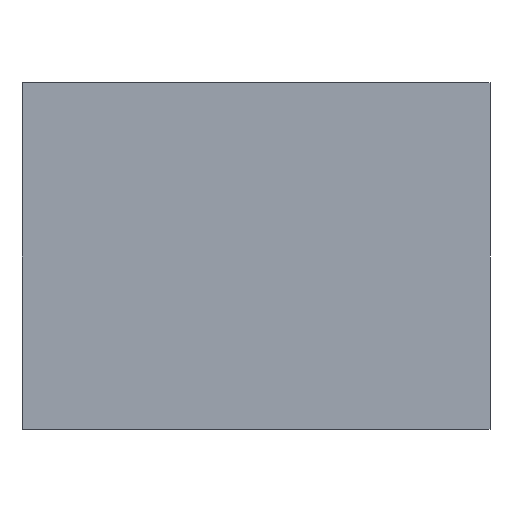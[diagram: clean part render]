
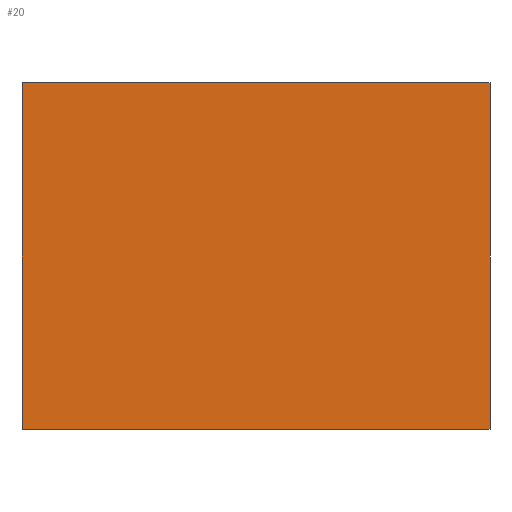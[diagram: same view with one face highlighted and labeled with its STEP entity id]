
A CAD part, front view. The second image highlights one B-rep face of the part: STEP entity #20.
In plain terms, the highlighted planar face has unit normal (0, -1, 0).
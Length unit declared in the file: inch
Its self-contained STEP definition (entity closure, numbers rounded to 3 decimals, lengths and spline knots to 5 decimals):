
#20=ADVANCED_FACE('',(#30),#157,.T.);
#30=FACE_OUTER_BOUND('',#40,.T.);
#40=EDGE_LOOP('',(#72,#73,#74,#75));
#72=ORIENTED_EDGE('',*,*,#114,.T.);
#73=ORIENTED_EDGE('',*,*,#92,.T.);
#74=ORIENTED_EDGE('',*,*,#115,.F.);
#75=ORIENTED_EDGE('',*,*,#104,.F.);
#92=EDGE_CURVE('',#140,#141,#116,.T.);
#104=EDGE_CURVE('',#148,#149,#128,.T.);
#114=EDGE_CURVE('',#148,#140,#138,.T.);
#115=EDGE_CURVE('',#149,#141,#139,.T.);
#116=B_SPLINE_CURVE_WITH_KNOTS('',1,(#309,#310),.UNSPECIFIED.,.F.,.F.,(2,
2),(0.,0.40751),.UNSPECIFIED.);
#128=B_SPLINE_CURVE_WITH_KNOTS('',1,(#333,#334),.UNSPECIFIED.,.F.,.F.,(2,
2),(0.,0.40751),.UNSPECIFIED.);
#138=B_SPLINE_CURVE_WITH_KNOTS('',1,(#353,#354),.UNSPECIFIED.,.F.,.F.,(2,
2),(3.83316,4.3838),.UNSPECIFIED.);
#139=B_SPLINE_CURVE_WITH_KNOTS('',1,(#355,#356),.UNSPECIFIED.,.F.,.F.,(2,
2),(3.83316,4.3838),.UNSPECIFIED.);
#140=VERTEX_POINT('',#293);
#141=VERTEX_POINT('',#294);
#148=VERTEX_POINT('',#301);
#149=VERTEX_POINT('',#302);
#157=PLANE('',#258);
#258=AXIS2_PLACEMENT_3D('',#284,#271,$);
#271=DIRECTION('',(0.,-1.,0.));
#284=CARTESIAN_POINT('',(-20.59825,29.12371,-1.58258));
#293=CARTESIAN_POINT('',(-16.21445,29.12371,-1.58258));
#294=CARTESIAN_POINT('',(-16.21445,29.12371,-1.17507));
#301=CARTESIAN_POINT('',(-16.7651,29.12371,-1.58258));
#302=CARTESIAN_POINT('',(-16.7651,29.12371,-1.17507));
#309=CARTESIAN_POINT('',(-16.21445,29.12371,-1.58258));
#310=CARTESIAN_POINT('',(-16.21445,29.12371,-1.17507));
#333=CARTESIAN_POINT('',(-16.7651,29.12371,-1.58258));
#334=CARTESIAN_POINT('',(-16.7651,29.12371,-1.17507));
#353=CARTESIAN_POINT('',(-16.7651,29.12371,-1.58258));
#354=CARTESIAN_POINT('',(-16.21445,29.12371,-1.58258));
#355=CARTESIAN_POINT('',(-16.7651,29.12371,-1.17507));
#356=CARTESIAN_POINT('',(-16.21445,29.12371,-1.17507));
